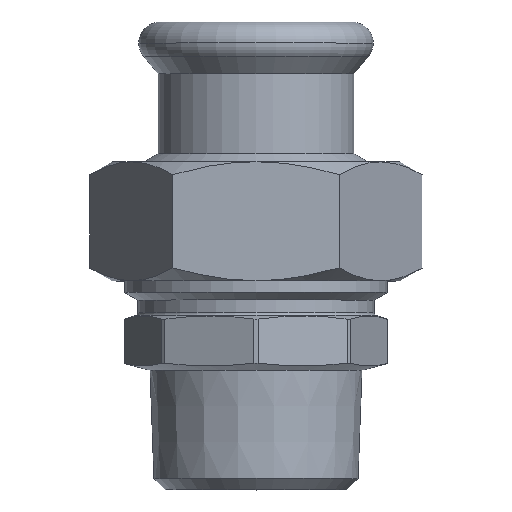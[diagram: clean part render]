
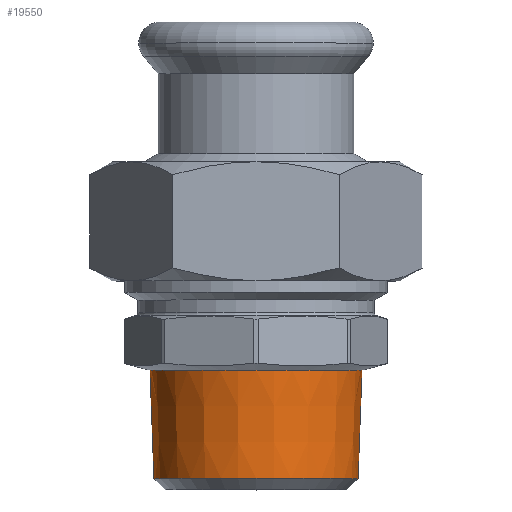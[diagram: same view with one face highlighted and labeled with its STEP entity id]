
A CAD part, top view. The second image highlights one B-rep face of the part: STEP entity #19550.
In plain terms, the highlighted conical face has half-angle 2.088 degrees and reference radius 16.931 mm.
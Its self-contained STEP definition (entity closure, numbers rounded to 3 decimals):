
#17800=CARTESIAN_POINT('',(460.313,11.462,
0.));
#17810=VERTEX_POINT('',#17800);
#18000=CARTESIAN_POINT('',(494.175,11.462,0.));
#18010=VERTEX_POINT('',#18000);
#18040=CARTESIAN_POINT('',(477.244,11.462,0.));
#18050=DIRECTION('',(0.,1.,0.));
#18060=DIRECTION('',(1.,0.,0.));
#18070=AXIS2_PLACEMENT_3D('',#18040,#18050,#18060);
#18080=CIRCLE('',#18070,16.931);
#18090=EDGE_CURVE('',#17810,#18010,#18080,.T.);
#19240=CARTESIAN_POINT('',(477.244,11.462,0.));
#19250=DIRECTION('',(0.,1.,0.));
#19260=DIRECTION('',(1.,0.,0.));
#19270=AXIS2_PLACEMENT_3D('',#19240,#19250,#19260);
#19280=CONICAL_SURFACE('',#19270,16.931,0.036);
#19290=CARTESIAN_POINT('',(460.313,11.462,
0.));
#19300=DIRECTION('',(-0.036,0.999,
0.));
#19310=VECTOR('',#19300,464.694);
#19320=LINE('',#19290,#19310);
#19330=CARTESIAN_POINT('',(460.944,-5.838,
0.));
#19340=VERTEX_POINT('',#19330);
#19350=EDGE_CURVE('',#19340,#17810,#19320,.T.);
#19360=ORIENTED_EDGE('',*,*,#19350,.F.);
#19370=ORIENTED_EDGE('',*,*,#18090,.F.);
#19380=CARTESIAN_POINT('',(494.175,11.462,0.));
#19390=DIRECTION('',(0.036,0.999,0.));
#19400=VECTOR('',#19390,464.694);
#19410=LINE('',#19380,#19400);
#19420=CARTESIAN_POINT('',(493.544,-5.838,0.));
#19430=VERTEX_POINT('',#19420);
#19440=EDGE_CURVE('',#19430,#18010,#19410,.T.);
#19450=ORIENTED_EDGE('',*,*,#19440,.T.);
#19460=CARTESIAN_POINT('',(477.244,-5.838,0.));
#19470=DIRECTION('',(0.,1.,0.));
#19480=DIRECTION('',(1.,0.,0.));
#19490=AXIS2_PLACEMENT_3D('',#19460,#19470,#19480);
#19500=CIRCLE('',#19490,16.3);
#19510=EDGE_CURVE('',#19340,#19430,#19500,.T.);
#19520=ORIENTED_EDGE('',*,*,#19510,.T.);
#19530=EDGE_LOOP('',(#19520,#19450,#19370,#19360));
#19540=FACE_OUTER_BOUND('',#19530,.T.);
#19550=ADVANCED_FACE('',(#19540),#19280,.T.);
